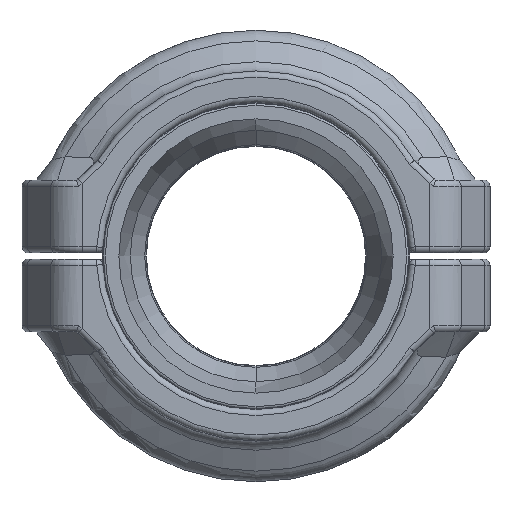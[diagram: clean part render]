
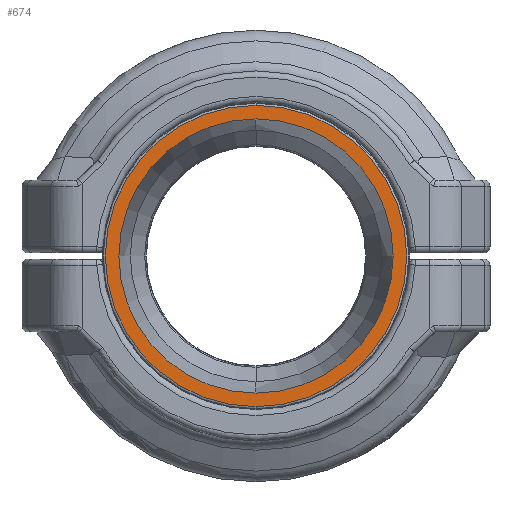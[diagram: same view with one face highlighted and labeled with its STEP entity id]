
A CAD part, left-side view. The second image highlights one B-rep face of the part: STEP entity #674.
In plain terms, the highlighted planar face has unit normal (-1, 0, 0).
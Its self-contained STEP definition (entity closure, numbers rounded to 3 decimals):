
#16=CARTESIAN_POINT('',(-91.128,0.,0.));
#17=DIRECTION('',(1.,0.,0.));
#18=DIRECTION('',(0.,0.,1.));
#19=AXIS2_PLACEMENT_3D('',#16,#17,#18);
#25=CARTESIAN_POINT('',(-91.128,0.,0.));
#26=DIRECTION('',(1.,0.,0.));
#27=DIRECTION('',(0.,0.,-1.));
#28=AXIS2_PLACEMENT_3D('',#25,#26,#27);
#33=CARTESIAN_POINT('',(-91.128,0.,0.));
#34=DIRECTION('',(-1.,0.,0.));
#35=DIRECTION('',(0.,0.,1.));
#36=AXIS2_PLACEMENT_3D('',#33,#34,#35);
#41=CARTESIAN_POINT('',(-91.128,0.,0.));
#42=DIRECTION('',(-1.,0.,0.));
#43=DIRECTION('',(0.,0.,-1.));
#44=AXIS2_PLACEMENT_3D('',#41,#42,#43);
#582=CARTESIAN_POINT('',(-91.128,0.,-22.567));
#584=VERTEX_POINT('',#582);
#586=CARTESIAN_POINT('',(-91.128,0.,22.567));
#588=VERTEX_POINT('',#586);
#653=CARTESIAN_POINT('',(-91.128,0.,-24.784));
#654=VERTEX_POINT('',#653);
#655=CARTESIAN_POINT('',(-91.128,0.,24.784));
#656=VERTEX_POINT('',#655);
#657=CARTESIAN_POINT('',(-91.128,24.784,0.));
#658=DIRECTION('',(1.,0.,0.));
#659=DIRECTION('',(0.,0.,-1.));
#660=AXIS2_PLACEMENT_3D('',#657,#658,#659);
#661=PLANE('',#660);
#663=ORIENTED_EDGE('',*,*,#662,.F.);
#665=ORIENTED_EDGE('',*,*,#664,.F.);
#666=EDGE_LOOP('',(#663,#665));
#667=FACE_OUTER_BOUND('',#666,.F.);
#669=ORIENTED_EDGE('',*,*,#668,.F.);
#671=ORIENTED_EDGE('',*,*,#670,.F.);
#672=EDGE_LOOP('',(#669,#671));
#673=FACE_BOUND('',#672,.F.);
#20=CIRCLE('',#19,22.567);
#29=CIRCLE('',#28,22.567);
#37=CIRCLE('',#36,24.784);
#45=CIRCLE('',#44,24.784);
#662=EDGE_CURVE('',#656,#654,#37,.T.);
#664=EDGE_CURVE('',#654,#656,#45,.T.);
#668=EDGE_CURVE('',#588,#584,#20,.T.);
#670=EDGE_CURVE('',#584,#588,#29,.T.);
#674=ADVANCED_FACE('',(#667,#673),#661,.F.);
